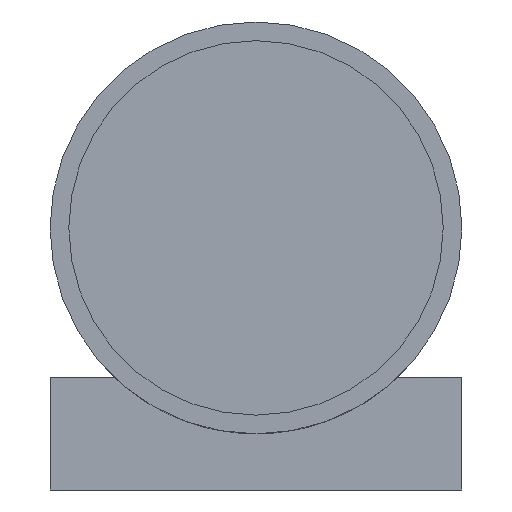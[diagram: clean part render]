
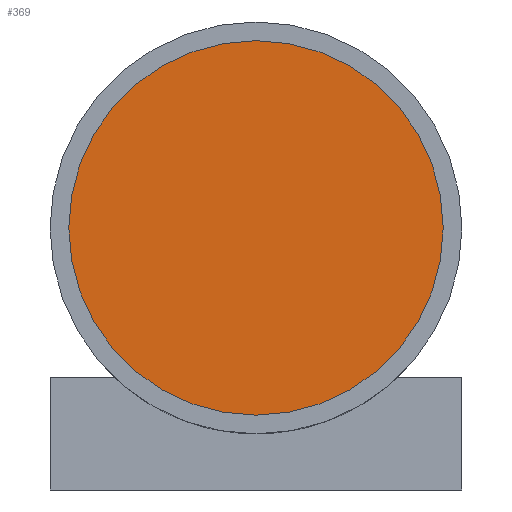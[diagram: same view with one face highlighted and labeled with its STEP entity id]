
A CAD part, left-side view. The second image highlights one B-rep face of the part: STEP entity #369.
In plain terms, the highlighted planar face has unit normal (-1, 0, 0).
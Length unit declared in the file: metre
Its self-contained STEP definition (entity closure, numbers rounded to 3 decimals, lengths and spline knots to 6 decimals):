
#25=PLANE('',#424);
#49=FACE_OUTER_BOUND('',#75,.T.);
#75=EDGE_LOOP('',(#287));
#171=CIRCLE('',#422,0.1);
#185=VERTEX_POINT('',#592);
#222=EDGE_CURVE('',#185,#185,#171,.T.);
#287=ORIENTED_EDGE('',*,*,#222,.T.);
#369=ADVANCED_FACE('',(#49),#25,.F.);
#422=AXIS2_PLACEMENT_3D('',#593,#486,#487);
#424=AXIS2_PLACEMENT_3D('',#597,#491,#492);
#486=DIRECTION('center_axis',(-1.,0.,0.));
#487=DIRECTION('ref_axis',(0.,-1.,0.));
#491=DIRECTION('center_axis',(1.,0.,0.));
#492=DIRECTION('ref_axis',(0.,0.,-1.));
#592=CARTESIAN_POINT('',(-0.275,0.1,0.14));
#593=CARTESIAN_POINT('Origin',(-0.275,0.,0.14));
#597=CARTESIAN_POINT('Origin',(-0.275,0.,0.14));
